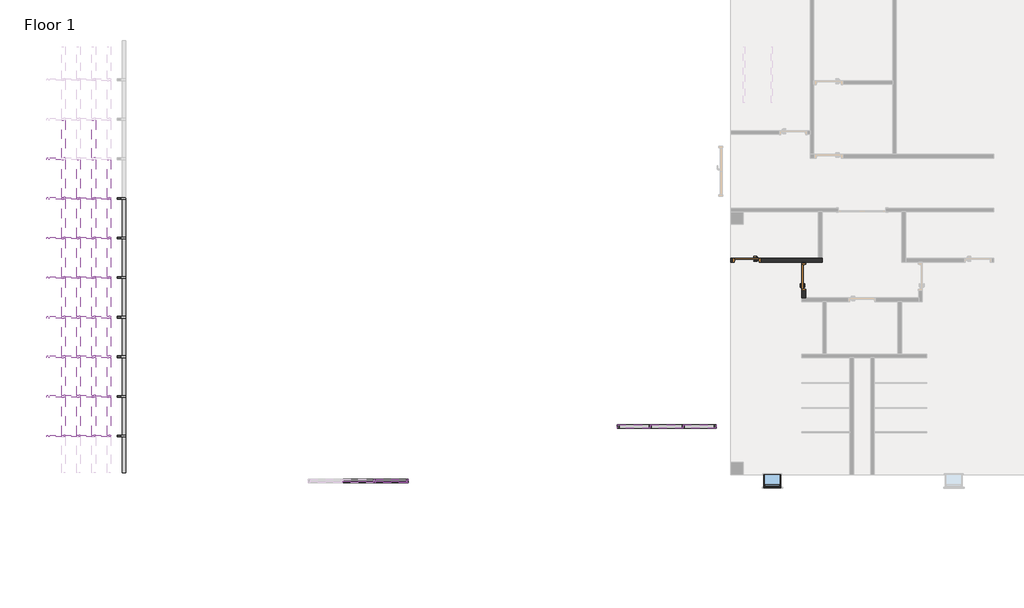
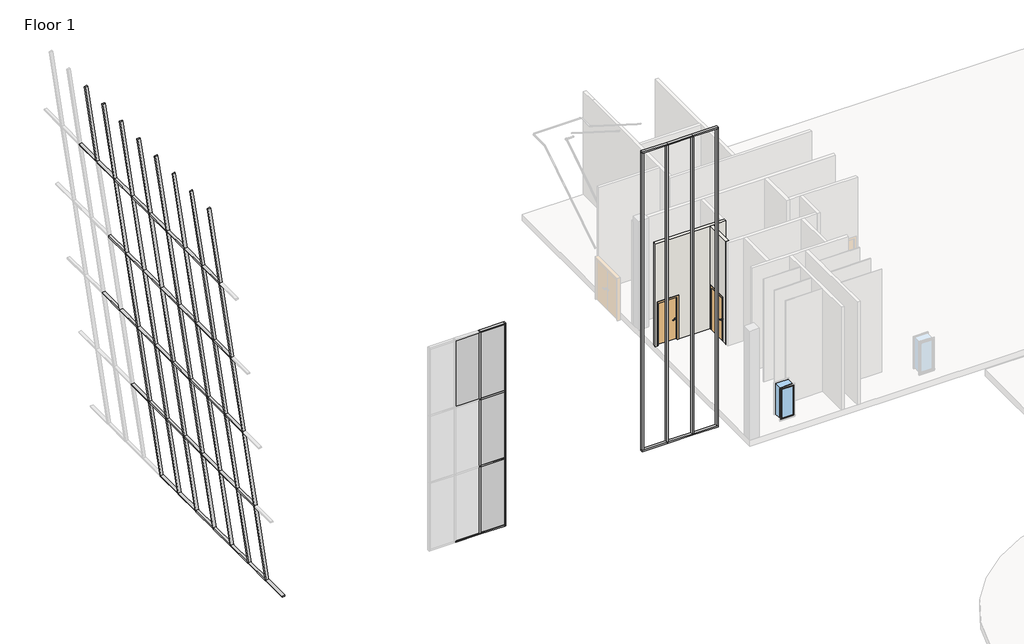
# One storey, part 3 of 11: 94 members, 4 plates, 2 doors, 2 walls, 1 window.
"""IFC4 building model written with IfcOpenShell, lengths in millimetres."""

from ifc_helpers import new_model, si_unit, frame, origin, place, context, project, spatial, polyline, outline, extrude, faceted_brep, transform, mapped, element, save
from components import door_36f17018, door_a46f4f49, member_7ac431fd, member_8669c44b, member_bd9c79d2, member_f8a9089e, member_5e02c13a, member_8caa64b4, member_b283b77b, member_01a33192, member_b037884b, member_01a4c065, member_349911e8, member_7b18d258, member_74dafc5e, member_9434a11c, system_panel_glazed_b92d501e, window_69ce9bab

model = new_model("IFC4")

# Units and contexts
model_context = context("Model", 3, world=origin())
ifc_project = project(units=[si_unit("LENGTHUNIT", "METRE", prefix="MILLI")], contexts=[model_context])

# Site, building, storey
site = spatial("IfcSite", under=ifc_project)
building = spatial("IfcBuilding", under=site)
storey = spatial("IfcBuildingStorey", under=building, Name="Floor 1", Elevation=0.0)

# Doors
placement = place(None, origin())
door_shape = door_36f17018(model_context)
element("IfcDoor", 1, ObjectType="Door-Passage-Single-Flush : 36\" x 84\"", at=placement, inside=storey, context=model_context, shape_type="MappedRepresentation", body=[
    mapped(door_shape, transform((-2380.0102165, 46455.811889, 0.0), x_axis=(-1.0, 0.0, 0.0), y_axis=(0.0, -1.0, 0.0), z_axis=(0.0, 0.0, 1.0))),
])
door_2_shape = door_a46f4f49(model_context)
element("IfcDoor", 2, ObjectType="Door-Passage-Single-Flush : 36\" x 84\"", at=placement, inside=storey, context=model_context, shape_type="MappedRepresentation", body=[
    mapped(door_2_shape, transform((-290.4807976, 45852.561889, 0.0), x_axis=(0.0, 1.0, 0.0), y_axis=(-1.0, 0.0, 0.0), z_axis=(0.0, 0.0, 1.0))),
])

# Members
member_shape = member_7ac431fd(model_context)
element("IfcMember", 3, ObjectType="Rectangular Mullion1 : 2.5\" x 5\" rectangular", at=placement, inside=storey, context=model_context, shape_type="MappedRepresentation", body=[
    mapped(member_shape, transform((-3497.6102165, 40372.511889, -152.4), x_axis=(0.0, 0.0, -1.0), y_axis=(0.0, 1.0, 0.0), z_axis=(1.0, 0.0, 0.0))),
])
element("IfcMember", 4, ObjectType="Rectangular Mullion1 : 2.5\" x 5\" rectangular", at=placement, inside=storey, context=model_context, shape_type="MappedRepresentation", body=[
    mapped(member_shape, transform((-7104.0307976, 40372.511889, 14935.2), x_axis=(0.0, 0.0, 1.0), y_axis=(0.0, 1.0, 0.0), z_axis=(-1.0, 0.0, 0.0))),
])
member_2_shape = member_8669c44b(model_context)
element("IfcMember", 5, ObjectType="Rectangular Mullion1 : 2.5\" x 5\" rectangular", at=placement, inside=storey, context=model_context, shape_type="MappedRepresentation", body=[
    mapped(member_2_shape, transform((-5901.8906039, 40372.511889, -88.9), x_axis=(-1.0, 0.0, 0.0), y_axis=(0.0, 1.0, 0.0), z_axis=(0.0, 0.0, -1.0))),
])
element("IfcMember", 6, ObjectType="Rectangular Mullion1 : 2.5\" x 5\" rectangular", at=placement, inside=storey, context=model_context, shape_type="MappedRepresentation", body=[
    mapped(member_2_shape, transform((-4699.7504102, 40372.511889, -88.9), x_axis=(-1.0, 0.0, 0.0), y_axis=(0.0, 1.0, 0.0), z_axis=(0.0, 0.0, -1.0))),
])
element("IfcMember", 7, ObjectType="Rectangular Mullion1 : 2.5\" x 5\" rectangular", at=placement, inside=storey, context=model_context, shape_type="MappedRepresentation", body=[
    mapped(member_shape, transform((-5901.8906039, 40372.511889, -152.4), x_axis=(0.0, 0.0, -1.0), y_axis=(0.0, 1.0, 0.0), z_axis=(1.0, 0.0, 0.0))),
])
element("IfcMember", 8, ObjectType="Rectangular Mullion1 : 2.5\" x 5\" rectangular", at=placement, inside=storey, context=model_context, shape_type="MappedRepresentation", body=[
    mapped(member_shape, transform((-4699.7504102, 40372.511889, -152.4), x_axis=(0.0, 0.0, -1.0), y_axis=(0.0, 1.0, 0.0), z_axis=(1.0, 0.0, 0.0))),
])
element("IfcMember", 9, ObjectType="Rectangular Mullion1 : 2.5\" x 5\" rectangular", at=placement, inside=storey, context=model_context, shape_type="MappedRepresentation", body=[
    mapped(member_shape, transform((-5901.8906039, 40372.511889, 14935.2), x_axis=(0.0, 0.0, 1.0), y_axis=(0.0, 1.0, 0.0), z_axis=(-1.0, 0.0, 0.0))),
])
element("IfcMember", 10, ObjectType="Rectangular Mullion1 : 2.5\" x 5\" rectangular", at=placement, inside=storey, context=model_context, shape_type="MappedRepresentation", body=[
    mapped(member_shape, transform((-4699.7504102, 40372.511889, 14935.2), x_axis=(0.0, 0.0, 1.0), y_axis=(0.0, 1.0, 0.0), z_axis=(-1.0, 0.0, 0.0))),
])
member_3_shape = member_bd9c79d2(model_context)
element("IfcMember", 11, ObjectType="Rectangular Mullion1 : 2.5\" x 5\" rectangular", at=placement, inside=storey, context=model_context, shape_type="MappedRepresentation", body=[
    mapped(member_3_shape, transform((-7104.0307976, 40372.511889, -88.9), x_axis=(-1.0, 0.0, 0.0), y_axis=(0.0, 1.0, 0.0), z_axis=(0.0, 0.0, -1.0))),
])
element("IfcMember", 12, ObjectType="Rectangular Mullion1 : 2.5\" x 5\" rectangular", at=placement, inside=storey, context=model_context, shape_type="MappedRepresentation", body=[
    mapped(member_3_shape, transform((-3497.6102165, 40372.511889, 14871.7), x_axis=(1.0, 0.0, 0.0), y_axis=(0.0, 1.0, 0.0), z_axis=(0.0, 0.0, 1.0))),
])
member_4_shape = member_f8a9089e(model_context)
element("IfcMember", 13, ObjectType="Rectangular Mullion1 : 2.5\" x 5\" rectangular", at=placement, inside=storey, context=model_context, shape_type="MappedRepresentation", body=[
    mapped(member_4_shape, transform((-25136.1948919, 40001.891697, -154.1674984), x_axis=(0.13917310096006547, 0.0, -0.9902680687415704), y_axis=(-0.9902680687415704, 0.0, -0.13917310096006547), z_axis=(0.0, 1.0, 0.0))),
])
member_5_shape = member_5e02c13a(model_context)
element("IfcMember", 14, ObjectType="Rectangular Mullion1 : 2.5\" x 5\" rectangular", at=placement, inside=storey, context=model_context, shape_type="MappedRepresentation", body=[
    mapped(member_5_shape, transform((-25136.1948919, 48684.2955428, -154.1674984), x_axis=(0.13917310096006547, 0.0, -0.9902680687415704), y_axis=(-0.9902680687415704, 0.0, -0.13917310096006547), z_axis=(0.0, 1.0, 0.0))),
])
element("IfcMember", 15, ObjectType="Rectangular Mullion1 : 2.5\" x 5\" rectangular", at=placement, inside=storey, context=model_context, shape_type="MappedRepresentation", body=[
    mapped(member_5_shape, transform((-25136.1948919, 47237.2282352, -154.1674984), x_axis=(0.13917310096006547, 0.0, -0.9902680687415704), y_axis=(-0.9902680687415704, 0.0, -0.13917310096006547), z_axis=(0.0, 1.0, 0.0))),
])
element("IfcMember", 16, ObjectType="Rectangular Mullion1 : 2.5\" x 5\" rectangular", at=placement, inside=storey, context=model_context, shape_type="MappedRepresentation", body=[
    mapped(member_5_shape, transform((-25136.1948919, 45790.1609275, -154.1674984), x_axis=(0.13917310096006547, 0.0, -0.9902680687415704), y_axis=(-0.9902680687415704, 0.0, -0.13917310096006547), z_axis=(0.0, 1.0, 0.0))),
])
element("IfcMember", 17, ObjectType="Rectangular Mullion1 : 2.5\" x 5\" rectangular", at=placement, inside=storey, context=model_context, shape_type="MappedRepresentation", body=[
    mapped(member_5_shape, transform((-25136.1948919, 44343.0936199, -154.1674984), x_axis=(0.13917310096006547, 0.0, -0.9902680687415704), y_axis=(-0.9902680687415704, 0.0, -0.13917310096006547), z_axis=(0.0, 1.0, 0.0))),
])
element("IfcMember", 18, ObjectType="Rectangular Mullion1 : 2.5\" x 5\" rectangular", at=placement, inside=storey, context=model_context, shape_type="MappedRepresentation", body=[
    mapped(member_5_shape, transform((-25136.1948919, 42896.0263122, -154.1674984), x_axis=(0.13917310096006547, 0.0, -0.9902680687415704), y_axis=(-0.9902680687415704, 0.0, -0.13917310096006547), z_axis=(0.0, 1.0, 0.0))),
])
element("IfcMember", 19, ObjectType="Rectangular Mullion1 : 2.5\" x 5\" rectangular", at=placement, inside=storey, context=model_context, shape_type="MappedRepresentation", body=[
    mapped(member_5_shape, transform((-25136.1948919, 41448.9590046, -154.1674984), x_axis=(0.13917310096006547, 0.0, -0.9902680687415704), y_axis=(-0.9902680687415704, 0.0, -0.13917310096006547), z_axis=(0.0, 1.0, 0.0))),
])
member_6_shape = member_8caa64b4(model_context)
element("IfcMember", 20, ObjectType="Rectangular Mullion1 : 2.5\" x 5\" rectangular", at=placement, inside=storey, context=model_context, shape_type="MappedRepresentation", body=[
    mapped(member_6_shape, transform((-25693.3790742, 48747.7955428, 3810.4039622), x_axis=(-0.13917310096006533, 0.0, 0.9902680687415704), y_axis=(-0.9902680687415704, 0.0, -0.13917310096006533), z_axis=(0.0, -1.0, 0.0))),
])
element("IfcMember", 21, ObjectType="Rectangular Mullion1 : 2.5\" x 5\" rectangular", at=placement, inside=storey, context=model_context, shape_type="MappedRepresentation", body=[
    mapped(member_6_shape, transform((-25693.3790742, 47300.7282352, 3810.4039622), x_axis=(-0.13917310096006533, 0.0, 0.9902680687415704), y_axis=(-0.9902680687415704, 0.0, -0.13917310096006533), z_axis=(0.0, -1.0, 0.0))),
])
element("IfcMember", 22, ObjectType="Rectangular Mullion1 : 2.5\" x 5\" rectangular", at=placement, inside=storey, context=model_context, shape_type="MappedRepresentation", body=[
    mapped(member_6_shape, transform((-25693.3790742, 45853.6609275, 3810.4039622), x_axis=(-0.13917310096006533, 0.0, 0.9902680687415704), y_axis=(-0.9902680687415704, 0.0, -0.13917310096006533), z_axis=(0.0, -1.0, 0.0))),
])
element("IfcMember", 23, ObjectType="Rectangular Mullion1 : 2.5\" x 5\" rectangular", at=placement, inside=storey, context=model_context, shape_type="MappedRepresentation", body=[
    mapped(member_6_shape, transform((-25693.3790742, 44406.5936199, 3810.4039622), x_axis=(-0.13917310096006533, 0.0, 0.9902680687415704), y_axis=(-0.9902680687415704, 0.0, -0.13917310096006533), z_axis=(0.0, -1.0, 0.0))),
])
element("IfcMember", 24, ObjectType="Rectangular Mullion1 : 2.5\" x 5\" rectangular", at=placement, inside=storey, context=model_context, shape_type="MappedRepresentation", body=[
    mapped(member_6_shape, transform((-25693.3790742, 42959.5263122, 3810.4039622), x_axis=(-0.13917310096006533, 0.0, 0.9902680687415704), y_axis=(-0.9902680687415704, 0.0, -0.13917310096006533), z_axis=(0.0, -1.0, 0.0))),
])
element("IfcMember", 25, ObjectType="Rectangular Mullion1 : 2.5\" x 5\" rectangular", at=placement, inside=storey, context=model_context, shape_type="MappedRepresentation", body=[
    mapped(member_6_shape, transform((-25693.3790742, 41512.4590046, 3810.4039622), x_axis=(-0.13917310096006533, 0.0, 0.9902680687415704), y_axis=(-0.9902680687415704, 0.0, -0.13917310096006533), z_axis=(0.0, -1.0, 0.0))),
])
element("IfcMember", 26, ObjectType="Rectangular Mullion1 : 2.5\" x 5\" rectangular", at=placement, inside=storey, context=model_context, shape_type="MappedRepresentation", body=[
    mapped(member_6_shape, transform((-25693.3790742, 40065.391697, 3810.4039622), x_axis=(-0.13917310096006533, 0.0, 0.9902680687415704), y_axis=(-0.9902680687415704, 0.0, -0.13917310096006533), z_axis=(0.0, -1.0, 0.0))),
])
element("IfcMember", 27, ObjectType="Rectangular Mullion1 : 2.5\" x 5\" rectangular", at=placement, inside=storey, context=model_context, shape_type="MappedRepresentation", body=[
    mapped(member_6_shape, transform((-26246.1445106, 50194.8628505, 7743.5344115), x_axis=(-0.13917310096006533, 0.0, 0.9902680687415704), y_axis=(-0.9902680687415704, 0.0, -0.13917310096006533), z_axis=(0.0, -1.0, 0.0))),
])
element("IfcMember", 28, ObjectType="Rectangular Mullion1 : 2.5\" x 5\" rectangular", at=placement, inside=storey, context=model_context, shape_type="MappedRepresentation", body=[
    mapped(member_6_shape, transform((-26246.1445106, 48747.7955428, 7743.5344115), x_axis=(-0.13917310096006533, 0.0, 0.9902680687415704), y_axis=(-0.9902680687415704, 0.0, -0.13917310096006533), z_axis=(0.0, -1.0, 0.0))),
])
element("IfcMember", 29, ObjectType="Rectangular Mullion1 : 2.5\" x 5\" rectangular", at=placement, inside=storey, context=model_context, shape_type="MappedRepresentation", body=[
    mapped(member_6_shape, transform((-26246.1445106, 47300.7282352, 7743.5344115), x_axis=(-0.13917310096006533, 0.0, 0.9902680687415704), y_axis=(-0.9902680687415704, 0.0, -0.13917310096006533), z_axis=(0.0, -1.0, 0.0))),
])
element("IfcMember", 30, ObjectType="Rectangular Mullion1 : 2.5\" x 5\" rectangular", at=placement, inside=storey, context=model_context, shape_type="MappedRepresentation", body=[
    mapped(member_6_shape, transform((-26246.1445106, 45853.6609275, 7743.5344115), x_axis=(-0.13917310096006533, 0.0, 0.9902680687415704), y_axis=(-0.9902680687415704, 0.0, -0.13917310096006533), z_axis=(0.0, -1.0, 0.0))),
])
element("IfcMember", 31, ObjectType="Rectangular Mullion1 : 2.5\" x 5\" rectangular", at=placement, inside=storey, context=model_context, shape_type="MappedRepresentation", body=[
    mapped(member_6_shape, transform((-26246.1445106, 44406.5936199, 7743.5344115), x_axis=(-0.13917310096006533, 0.0, 0.9902680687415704), y_axis=(-0.9902680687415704, 0.0, -0.13917310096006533), z_axis=(0.0, -1.0, 0.0))),
])
element("IfcMember", 32, ObjectType="Rectangular Mullion1 : 2.5\" x 5\" rectangular", at=placement, inside=storey, context=model_context, shape_type="MappedRepresentation", body=[
    mapped(member_6_shape, transform((-26246.1445106, 42959.5263122, 7743.5344115), x_axis=(-0.13917310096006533, 0.0, 0.9902680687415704), y_axis=(-0.9902680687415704, 0.0, -0.13917310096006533), z_axis=(0.0, -1.0, 0.0))),
])
element("IfcMember", 33, ObjectType="Rectangular Mullion1 : 2.5\" x 5\" rectangular", at=placement, inside=storey, context=model_context, shape_type="MappedRepresentation", body=[
    mapped(member_6_shape, transform((-26246.1445106, 41512.4590046, 7743.5344115), x_axis=(-0.13917310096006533, 0.0, 0.9902680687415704), y_axis=(-0.9902680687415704, 0.0, -0.13917310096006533), z_axis=(0.0, -1.0, 0.0))),
])
element("IfcMember", 34, ObjectType="Rectangular Mullion1 : 2.5\" x 5\" rectangular", at=placement, inside=storey, context=model_context, shape_type="MappedRepresentation", body=[
    mapped(member_6_shape, transform((-26246.1445106, 40065.391697, 7743.5344115), x_axis=(-0.13917310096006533, 0.0, 0.9902680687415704), y_axis=(-0.9902680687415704, 0.0, -0.13917310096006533), z_axis=(0.0, -1.0, 0.0))),
])
element("IfcMember", 35, ObjectType="Rectangular Mullion1 : 2.5\" x 5\" rectangular", at=placement, inside=storey, context=model_context, shape_type="MappedRepresentation", body=[
    mapped(member_6_shape, transform((-26798.9099469, 48747.7955428, 11676.6648609), x_axis=(-0.13917310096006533, 0.0, 0.9902680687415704), y_axis=(-0.9902680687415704, 0.0, -0.13917310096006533), z_axis=(0.0, -1.0, 0.0))),
])
element("IfcMember", 36, ObjectType="Rectangular Mullion1 : 2.5\" x 5\" rectangular", at=placement, inside=storey, context=model_context, shape_type="MappedRepresentation", body=[
    mapped(member_6_shape, transform((-26798.9099469, 47300.7282352, 11676.6648609), x_axis=(-0.13917310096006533, 0.0, 0.9902680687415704), y_axis=(-0.9902680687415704, 0.0, -0.13917310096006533), z_axis=(0.0, -1.0, 0.0))),
])
element("IfcMember", 37, ObjectType="Rectangular Mullion1 : 2.5\" x 5\" rectangular", at=placement, inside=storey, context=model_context, shape_type="MappedRepresentation", body=[
    mapped(member_6_shape, transform((-26798.9099469, 45853.6609275, 11676.6648609), x_axis=(-0.13917310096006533, 0.0, 0.9902680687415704), y_axis=(-0.9902680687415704, 0.0, -0.13917310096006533), z_axis=(0.0, -1.0, 0.0))),
])
element("IfcMember", 38, ObjectType="Rectangular Mullion1 : 2.5\" x 5\" rectangular", at=placement, inside=storey, context=model_context, shape_type="MappedRepresentation", body=[
    mapped(member_6_shape, transform((-26798.9099469, 44406.5936199, 11676.6648609), x_axis=(-0.13917310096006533, 0.0, 0.9902680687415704), y_axis=(-0.9902680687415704, 0.0, -0.13917310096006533), z_axis=(0.0, -1.0, 0.0))),
])
element("IfcMember", 39, ObjectType="Rectangular Mullion1 : 2.5\" x 5\" rectangular", at=placement, inside=storey, context=model_context, shape_type="MappedRepresentation", body=[
    mapped(member_6_shape, transform((-26798.9099469, 42959.5263122, 11676.6648609), x_axis=(-0.13917310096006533, 0.0, 0.9902680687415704), y_axis=(-0.9902680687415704, 0.0, -0.13917310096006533), z_axis=(0.0, -1.0, 0.0))),
])
element("IfcMember", 40, ObjectType="Rectangular Mullion1 : 2.5\" x 5\" rectangular", at=placement, inside=storey, context=model_context, shape_type="MappedRepresentation", body=[
    mapped(member_6_shape, transform((-26798.9099469, 41512.4590046, 11676.6648609), x_axis=(-0.13917310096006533, 0.0, 0.9902680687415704), y_axis=(-0.9902680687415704, 0.0, -0.13917310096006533), z_axis=(0.0, -1.0, 0.0))),
])
element("IfcMember", 41, ObjectType="Rectangular Mullion1 : 2.5\" x 5\" rectangular", at=placement, inside=storey, context=model_context, shape_type="MappedRepresentation", body=[
    mapped(member_6_shape, transform((-26798.9099469, 40065.391697, 11676.6648609), x_axis=(-0.13917310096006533, 0.0, 0.9902680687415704), y_axis=(-0.9902680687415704, 0.0, -0.13917310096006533), z_axis=(0.0, -1.0, 0.0))),
])
element("IfcMember", 42, ObjectType="Rectangular Mullion1 : 2.5\" x 5\" rectangular", at=placement, inside=storey, context=model_context, shape_type="MappedRepresentation", body=[
    mapped(member_6_shape, transform((-27351.6753833, 50194.8628505, 15609.7953102), x_axis=(-0.13917310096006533, 0.0, 0.9902680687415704), y_axis=(-0.9902680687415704, 0.0, -0.13917310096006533), z_axis=(0.0, -1.0, 0.0))),
])
element("IfcMember", 43, ObjectType="Rectangular Mullion1 : 2.5\" x 5\" rectangular", at=placement, inside=storey, context=model_context, shape_type="MappedRepresentation", body=[
    mapped(member_6_shape, transform((-27351.6753833, 48747.7955428, 15609.7953102), x_axis=(-0.13917310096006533, 0.0, 0.9902680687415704), y_axis=(-0.9902680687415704, 0.0, -0.13917310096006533), z_axis=(0.0, -1.0, 0.0))),
])
element("IfcMember", 44, ObjectType="Rectangular Mullion1 : 2.5\" x 5\" rectangular", at=placement, inside=storey, context=model_context, shape_type="MappedRepresentation", body=[
    mapped(member_6_shape, transform((-27351.6753833, 47300.7282352, 15609.7953102), x_axis=(-0.13917310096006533, 0.0, 0.9902680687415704), y_axis=(-0.9902680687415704, 0.0, -0.13917310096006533), z_axis=(0.0, -1.0, 0.0))),
])
element("IfcMember", 45, ObjectType="Rectangular Mullion1 : 2.5\" x 5\" rectangular", at=placement, inside=storey, context=model_context, shape_type="MappedRepresentation", body=[
    mapped(member_6_shape, transform((-27351.6753833, 45853.6609275, 15609.7953102), x_axis=(-0.13917310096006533, 0.0, 0.9902680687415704), y_axis=(-0.9902680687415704, 0.0, -0.13917310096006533), z_axis=(0.0, -1.0, 0.0))),
])
element("IfcMember", 46, ObjectType="Rectangular Mullion1 : 2.5\" x 5\" rectangular", at=placement, inside=storey, context=model_context, shape_type="MappedRepresentation", body=[
    mapped(member_6_shape, transform((-27351.6753833, 44406.5936199, 15609.7953102), x_axis=(-0.13917310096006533, 0.0, 0.9902680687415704), y_axis=(-0.9902680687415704, 0.0, -0.13917310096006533), z_axis=(0.0, -1.0, 0.0))),
])
element("IfcMember", 47, ObjectType="Rectangular Mullion1 : 2.5\" x 5\" rectangular", at=placement, inside=storey, context=model_context, shape_type="MappedRepresentation", body=[
    mapped(member_6_shape, transform((-27351.6753833, 42959.5263122, 15609.7953102), x_axis=(-0.13917310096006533, 0.0, 0.9902680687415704), y_axis=(-0.9902680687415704, 0.0, -0.13917310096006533), z_axis=(0.0, -1.0, 0.0))),
])
element("IfcMember", 48, ObjectType="Rectangular Mullion1 : 2.5\" x 5\" rectangular", at=placement, inside=storey, context=model_context, shape_type="MappedRepresentation", body=[
    mapped(member_6_shape, transform((-27351.6753833, 41512.4590046, 15609.7953102), x_axis=(-0.13917310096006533, 0.0, 0.9902680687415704), y_axis=(-0.9902680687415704, 0.0, -0.13917310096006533), z_axis=(0.0, -1.0, 0.0))),
])
element("IfcMember", 49, ObjectType="Rectangular Mullion1 : 2.5\" x 5\" rectangular", at=placement, inside=storey, context=model_context, shape_type="MappedRepresentation", body=[
    mapped(member_6_shape, transform((-27351.6753833, 40065.391697, 15609.7953102), x_axis=(-0.13917310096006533, 0.0, 0.9902680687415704), y_axis=(-0.9902680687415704, 0.0, -0.13917310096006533), z_axis=(0.0, -1.0, 0.0))),
])
member_7_shape = member_b283b77b(model_context)
element("IfcMember", 50, ObjectType="Rectangular Mullion1 : 2.5\" x 5\" rectangular", at=placement, inside=storey, context=model_context, shape_type="MappedRepresentation", body=[
    mapped(member_7_shape, transform((-25136.1948919, 48716.0455428, -154.1674984), x_axis=(0.0, -1.0, 0.0), y_axis=(-0.9902680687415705, 0.0, -0.13917310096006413), z_axis=(0.13917310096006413, 0.0, -0.9902680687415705))),
])
element("IfcMember", 51, ObjectType="Rectangular Mullion1 : 2.5\" x 5\" rectangular", at=placement, inside=storey, context=model_context, shape_type="MappedRepresentation", body=[
    mapped(member_7_shape, transform((-25136.1948919, 47268.9782352, -154.1674984), x_axis=(0.0, -1.0, 0.0), y_axis=(-0.9902680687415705, 0.0, -0.13917310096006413), z_axis=(0.13917310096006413, 0.0, -0.9902680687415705))),
])
element("IfcMember", 52, ObjectType="Rectangular Mullion1 : 2.5\" x 5\" rectangular", at=placement, inside=storey, context=model_context, shape_type="MappedRepresentation", body=[
    mapped(member_7_shape, transform((-25136.1948919, 45821.9109275, -154.1674984), x_axis=(0.0, -1.0, 0.0), y_axis=(-0.9902680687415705, 0.0, -0.13917310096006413), z_axis=(0.13917310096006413, 0.0, -0.9902680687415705))),
])
element("IfcMember", 53, ObjectType="Rectangular Mullion1 : 2.5\" x 5\" rectangular", at=placement, inside=storey, context=model_context, shape_type="MappedRepresentation", body=[
    mapped(member_7_shape, transform((-25136.1948919, 44374.8436199, -154.1674984), x_axis=(0.0, -1.0, 0.0), y_axis=(-0.9902680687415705, 0.0, -0.13917310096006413), z_axis=(0.13917310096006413, 0.0, -0.9902680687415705))),
])
element("IfcMember", 54, ObjectType="Rectangular Mullion1 : 2.5\" x 5\" rectangular", at=placement, inside=storey, context=model_context, shape_type="MappedRepresentation", body=[
    mapped(member_7_shape, transform((-25136.1948919, 42927.7763122, -154.1674984), x_axis=(0.0, -1.0, 0.0), y_axis=(-0.9902680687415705, 0.0, -0.13917310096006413), z_axis=(0.13917310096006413, 0.0, -0.9902680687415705))),
])
element("IfcMember", 55, ObjectType="Rectangular Mullion1 : 2.5\" x 5\" rectangular", at=placement, inside=storey, context=model_context, shape_type="MappedRepresentation", body=[
    mapped(member_7_shape, transform((-25136.1948919, 41480.7090046, -154.1674984), x_axis=(0.0, -1.0, 0.0), y_axis=(-0.99026806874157, 0.0, -0.1391731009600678), z_axis=(0.1391731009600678, 0.0, -0.99026806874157))),
])
element("IfcMember", 56, ObjectType="Rectangular Mullion1 : 2.5\" x 5\" rectangular", at=placement, inside=storey, context=model_context, shape_type="MappedRepresentation", body=[
    mapped(member_7_shape, transform((-25136.1948919, 40033.641697, -154.1674984), x_axis=(0.0, -1.0, 0.0), y_axis=(-0.9902680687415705, 0.0, -0.13917310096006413), z_axis=(0.13917310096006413, 0.0, -0.9902680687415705))),
])
member_8_shape = member_01a33192(model_context)
element("IfcMember", 57, ObjectType="Rectangular Mullion1 : 2.5\" x 5\" rectangular", at=placement, inside=storey, context=model_context, shape_type="MappedRepresentation", body=[
    mapped(member_8_shape, transform((-25693.3790742, 48716.0455428, 3810.4039622), x_axis=(0.0, -1.0, 0.0), y_axis=(-0.9902680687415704, 0.0, -0.13917310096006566), z_axis=(0.13917310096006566, 0.0, -0.9902680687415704))),
])
element("IfcMember", 58, ObjectType="Rectangular Mullion1 : 2.5\" x 5\" rectangular", at=placement, inside=storey, context=model_context, shape_type="MappedRepresentation", body=[
    mapped(member_8_shape, transform((-25693.3790742, 47268.9782352, 3810.4039622), x_axis=(0.0, -1.0, 0.0), y_axis=(-0.9902680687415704, 0.0, -0.13917310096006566), z_axis=(0.13917310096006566, 0.0, -0.9902680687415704))),
])
element("IfcMember", 59, ObjectType="Rectangular Mullion1 : 2.5\" x 5\" rectangular", at=placement, inside=storey, context=model_context, shape_type="MappedRepresentation", body=[
    mapped(member_8_shape, transform((-25693.3790742, 45821.9109275, 3810.4039622), x_axis=(0.0, -1.0, 0.0), y_axis=(-0.9902680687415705, 0.0, -0.13917310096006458), z_axis=(0.13917310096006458, 0.0, -0.9902680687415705))),
])
element("IfcMember", 60, ObjectType="Rectangular Mullion1 : 2.5\" x 5\" rectangular", at=placement, inside=storey, context=model_context, shape_type="MappedRepresentation", body=[
    mapped(member_8_shape, transform((-25693.3790742, 44374.8436199, 3810.4039622), x_axis=(0.0, -1.0, 0.0), y_axis=(-0.9902680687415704, 0.0, -0.13917310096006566), z_axis=(0.13917310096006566, 0.0, -0.9902680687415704))),
])
element("IfcMember", 61, ObjectType="Rectangular Mullion1 : 2.5\" x 5\" rectangular", at=placement, inside=storey, context=model_context, shape_type="MappedRepresentation", body=[
    mapped(member_8_shape, transform((-25693.3790742, 42927.7763122, 3810.4039622), x_axis=(0.0, -1.0, 0.0), y_axis=(-0.9902680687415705, 0.0, -0.13917310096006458), z_axis=(0.13917310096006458, 0.0, -0.9902680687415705))),
])
element("IfcMember", 62, ObjectType="Rectangular Mullion1 : 2.5\" x 5\" rectangular", at=placement, inside=storey, context=model_context, shape_type="MappedRepresentation", body=[
    mapped(member_8_shape, transform((-25693.3790742, 41480.7090046, 3810.4039622), x_axis=(0.0, -1.0, 0.0), y_axis=(-0.9902680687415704, 0.0, -0.13917310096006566), z_axis=(0.13917310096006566, 0.0, -0.9902680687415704))),
])
element("IfcMember", 63, ObjectType="Rectangular Mullion1 : 2.5\" x 5\" rectangular", at=placement, inside=storey, context=model_context, shape_type="MappedRepresentation", body=[
    mapped(member_8_shape, transform((-25693.3790742, 40033.641697, 3810.4039622), x_axis=(0.0, -1.0, 0.0), y_axis=(-0.9902680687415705, 0.0, -0.13917310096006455), z_axis=(0.13917310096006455, 0.0, -0.9902680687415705))),
])
element("IfcMember", 64, ObjectType="Rectangular Mullion1 : 2.5\" x 5\" rectangular", at=placement, inside=storey, context=model_context, shape_type="MappedRepresentation", body=[
    mapped(member_8_shape, transform((-26246.1445106, 48716.0455428, 7743.5344115), x_axis=(0.0, -1.0, 0.0), y_axis=(-0.9902680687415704, 0.0, -0.13917310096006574), z_axis=(0.13917310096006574, 0.0, -0.9902680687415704))),
])
element("IfcMember", 65, ObjectType="Rectangular Mullion1 : 2.5\" x 5\" rectangular", at=placement, inside=storey, context=model_context, shape_type="MappedRepresentation", body=[
    mapped(member_8_shape, transform((-26246.1445106, 47268.9782352, 7743.5344115), x_axis=(0.0, -1.0, 0.0), y_axis=(-0.9902680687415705, 0.0, -0.13917310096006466), z_axis=(0.13917310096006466, 0.0, -0.9902680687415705))),
])
element("IfcMember", 66, ObjectType="Rectangular Mullion1 : 2.5\" x 5\" rectangular", at=placement, inside=storey, context=model_context, shape_type="MappedRepresentation", body=[
    mapped(member_8_shape, transform((-26246.1445106, 45821.9109275, 7743.5344115), x_axis=(0.0, -1.0, 0.0), y_axis=(-0.9902680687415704, 0.0, -0.13917310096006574), z_axis=(0.13917310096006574, 0.0, -0.9902680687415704))),
])
element("IfcMember", 67, ObjectType="Rectangular Mullion1 : 2.5\" x 5\" rectangular", at=placement, inside=storey, context=model_context, shape_type="MappedRepresentation", body=[
    mapped(member_8_shape, transform((-26246.1445106, 44374.8436199, 7743.5344115), x_axis=(0.0, -1.0, 0.0), y_axis=(-0.9902680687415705, 0.0, -0.13917310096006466), z_axis=(0.13917310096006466, 0.0, -0.9902680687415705))),
])
element("IfcMember", 68, ObjectType="Rectangular Mullion1 : 2.5\" x 5\" rectangular", at=placement, inside=storey, context=model_context, shape_type="MappedRepresentation", body=[
    mapped(member_8_shape, transform((-26246.1445106, 42927.7763122, 7743.5344115), x_axis=(0.0, -1.0, 0.0), y_axis=(-0.9902680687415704, 0.0, -0.13917310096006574), z_axis=(0.13917310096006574, 0.0, -0.9902680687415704))),
])
element("IfcMember", 69, ObjectType="Rectangular Mullion1 : 2.5\" x 5\" rectangular", at=placement, inside=storey, context=model_context, shape_type="MappedRepresentation", body=[
    mapped(member_8_shape, transform((-26246.1445106, 41480.7090046, 7743.5344115), x_axis=(0.0, -1.0, 0.0), y_axis=(-0.9902680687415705, 0.0, -0.13917310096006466), z_axis=(0.13917310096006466, 0.0, -0.9902680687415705))),
])
element("IfcMember", 70, ObjectType="Rectangular Mullion1 : 2.5\" x 5\" rectangular", at=placement, inside=storey, context=model_context, shape_type="MappedRepresentation", body=[
    mapped(member_8_shape, transform((-26246.1445106, 40033.641697, 7743.5344115), x_axis=(0.0, -1.0, 0.0), y_axis=(-0.9902680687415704, 0.0, -0.13917310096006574), z_axis=(0.13917310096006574, 0.0, -0.9902680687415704))),
])
element("IfcMember", 71, ObjectType="Rectangular Mullion1 : 2.5\" x 5\" rectangular", at=placement, inside=storey, context=model_context, shape_type="MappedRepresentation", body=[
    mapped(member_8_shape, transform((-26798.9099469, 48716.0455428, 11676.6648609), x_axis=(0.0, -1.0, 0.0), y_axis=(-0.9902680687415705, 0.0, -0.1391731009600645), z_axis=(0.1391731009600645, 0.0, -0.9902680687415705))),
])
element("IfcMember", 72, ObjectType="Rectangular Mullion1 : 2.5\" x 5\" rectangular", at=placement, inside=storey, context=model_context, shape_type="MappedRepresentation", body=[
    mapped(member_8_shape, transform((-26798.9099469, 47268.9782352, 11676.6648609), x_axis=(0.0, -1.0, 0.0), y_axis=(-0.9902680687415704, 0.0, -0.13917310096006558), z_axis=(0.13917310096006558, 0.0, -0.9902680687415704))),
])
element("IfcMember", 73, ObjectType="Rectangular Mullion1 : 2.5\" x 5\" rectangular", at=placement, inside=storey, context=model_context, shape_type="MappedRepresentation", body=[
    mapped(member_8_shape, transform((-26798.9099469, 45821.9109275, 11676.6648609), x_axis=(0.0, -1.0, 0.0), y_axis=(-0.9902680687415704, 0.0, -0.13917310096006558), z_axis=(0.13917310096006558, 0.0, -0.9902680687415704))),
])
element("IfcMember", 74, ObjectType="Rectangular Mullion1 : 2.5\" x 5\" rectangular", at=placement, inside=storey, context=model_context, shape_type="MappedRepresentation", body=[
    mapped(member_8_shape, transform((-26798.9099469, 44374.8436199, 11676.6648609), x_axis=(0.0, -1.0, 0.0), y_axis=(-0.9902680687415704, 0.0, -0.13917310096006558), z_axis=(0.13917310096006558, 0.0, -0.9902680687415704))),
])
element("IfcMember", 75, ObjectType="Rectangular Mullion1 : 2.5\" x 5\" rectangular", at=placement, inside=storey, context=model_context, shape_type="MappedRepresentation", body=[
    mapped(member_8_shape, transform((-26798.9099469, 42927.7763122, 11676.6648609), x_axis=(0.0, -1.0, 0.0), y_axis=(-0.9902680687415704, 0.0, -0.13917310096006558), z_axis=(0.13917310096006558, 0.0, -0.9902680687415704))),
])
element("IfcMember", 76, ObjectType="Rectangular Mullion1 : 2.5\" x 5\" rectangular", at=placement, inside=storey, context=model_context, shape_type="MappedRepresentation", body=[
    mapped(member_8_shape, transform((-26798.9099469, 41480.7090046, 11676.6648609), x_axis=(0.0, -1.0, 0.0), y_axis=(-0.9902680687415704, 0.0, -0.13917310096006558), z_axis=(0.13917310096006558, 0.0, -0.9902680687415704))),
])
element("IfcMember", 77, ObjectType="Rectangular Mullion1 : 2.5\" x 5\" rectangular", at=placement, inside=storey, context=model_context, shape_type="MappedRepresentation", body=[
    mapped(member_8_shape, transform((-26798.9099469, 40033.641697, 11676.6648609), x_axis=(0.0, -1.0, 0.0), y_axis=(-0.9902680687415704, 0.0, -0.13917310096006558), z_axis=(0.13917310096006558, 0.0, -0.9902680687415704))),
])
element("IfcMember", 78, ObjectType="Rectangular Mullion1 : 2.5\" x 5\" rectangular", at=placement, inside=storey, context=model_context, shape_type="MappedRepresentation", body=[
    mapped(member_7_shape, transform((-27351.6753833, 50163.1128505, 15609.7953102), x_axis=(0.0, -1.0, 0.0), y_axis=(-0.9902680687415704, 0.0, -0.13917310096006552), z_axis=(0.1391731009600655, 0.0, -0.9902680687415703))),
])
element("IfcMember", 79, ObjectType="Rectangular Mullion1 : 2.5\" x 5\" rectangular", at=placement, inside=storey, context=model_context, shape_type="MappedRepresentation", body=[
    mapped(member_7_shape, transform((-27351.6753833, 48716.0455428, 15609.7953102), x_axis=(0.0, -1.0, 0.0), y_axis=(-0.9902680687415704, 0.0, -0.13917310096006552), z_axis=(0.1391731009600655, 0.0, -0.9902680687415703))),
])
element("IfcMember", 80, ObjectType="Rectangular Mullion1 : 2.5\" x 5\" rectangular", at=placement, inside=storey, context=model_context, shape_type="MappedRepresentation", body=[
    mapped(member_7_shape, transform((-27351.6753833, 47268.9782352, 15609.7953102), x_axis=(0.0, -1.0, 0.0), y_axis=(-0.9902680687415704, 0.0, -0.13917310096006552), z_axis=(0.1391731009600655, 0.0, -0.9902680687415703))),
])
element("IfcMember", 81, ObjectType="Rectangular Mullion1 : 2.5\" x 5\" rectangular", at=placement, inside=storey, context=model_context, shape_type="MappedRepresentation", body=[
    mapped(member_7_shape, transform((-27351.6753833, 45821.9109275, 15609.7953102), x_axis=(0.0, -1.0, 0.0), y_axis=(-0.9902680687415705, 0.0, -0.13917310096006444), z_axis=(0.13917310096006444, 0.0, -0.9902680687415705))),
])
element("IfcMember", 82, ObjectType="Rectangular Mullion1 : 2.5\" x 5\" rectangular", at=placement, inside=storey, context=model_context, shape_type="MappedRepresentation", body=[
    mapped(member_7_shape, transform((-27351.6753833, 44374.8436199, 15609.7953102), x_axis=(0.0, -1.0, 0.0), y_axis=(-0.9902680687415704, 0.0, -0.13917310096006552), z_axis=(0.1391731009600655, 0.0, -0.9902680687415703))),
])
element("IfcMember", 83, ObjectType="Rectangular Mullion1 : 2.5\" x 5\" rectangular", at=placement, inside=storey, context=model_context, shape_type="MappedRepresentation", body=[
    mapped(member_7_shape, transform((-27351.6753833, 42927.7763122, 15609.7953102), x_axis=(0.0, -1.0, 0.0), y_axis=(-0.9902680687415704, 0.0, -0.13917310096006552), z_axis=(0.1391731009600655, 0.0, -0.9902680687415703))),
])
element("IfcMember", 84, ObjectType="Rectangular Mullion1 : 2.5\" x 5\" rectangular", at=placement, inside=storey, context=model_context, shape_type="MappedRepresentation", body=[
    mapped(member_7_shape, transform((-27351.6753833, 41480.7090046, 15609.7953102), x_axis=(0.0, -1.0, 0.0), y_axis=(-0.9902680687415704, 0.0, -0.13917310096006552), z_axis=(0.1391731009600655, 0.0, -0.9902680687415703))),
])
element("IfcMember", 85, ObjectType="Rectangular Mullion1 : 2.5\" x 5\" rectangular", at=placement, inside=storey, context=model_context, shape_type="MappedRepresentation", body=[
    mapped(member_7_shape, transform((-27351.6753833, 40033.641697, 15609.7953102), x_axis=(0.0, -1.0, 0.0), y_axis=(-0.9902680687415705, 0.0, -0.13917310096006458), z_axis=(0.13917310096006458, 0.0, -0.9902680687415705))),
])
member_9_shape = member_b037884b(model_context)
element("IfcMember", 86, ObjectType="Rectangular Mullion1 : 2.5\" x 5\" rectangular", at=placement, inside=storey, context=model_context, shape_type="MappedRepresentation", body=[
    mapped(member_9_shape, transform((-15945.8766311, 38391.311889, 10210.8), x_axis=(0.0, 0.0, 1.0), y_axis=(0.0, 1.0, 0.0), z_axis=(-1.0, 0.0, 0.0))),
])
element("IfcMember", 87, ObjectType="Rectangular Mullion1 : 2.5\" x 5\" rectangular", at=placement, inside=storey, context=model_context, shape_type="MappedRepresentation", body=[
    mapped(member_9_shape, transform((-14811.3432976, 38391.311889, 0.0), x_axis=(0.0, 0.0, -1.0), y_axis=(0.0, 1.0, 0.0), z_axis=(1.0, 0.0, 0.0))),
])
element("IfcMember", 88, ObjectType="Rectangular Mullion1 : 2.5\" x 5\" rectangular", at=placement, inside=storey, context=model_context, shape_type="MappedRepresentation", body=[
    mapped(member_9_shape, transform((-16009.3766311, 38391.311889, 0.0), x_axis=(0.0, 0.0, -1.0), y_axis=(0.0, 1.0, 0.0), z_axis=(1.0, 0.0, 0.0))),
])
member_10_shape = member_01a4c065(model_context)
element("IfcMember", 89, ObjectType="Rectangular Mullion1 : 2.5\" x 5\" rectangular", at=placement, inside=storey, context=model_context, shape_type="MappedRepresentation", body=[
    mapped(member_10_shape, transform((-15945.8766311, 38391.311889, 3414.1833333), x_axis=(0.0, 0.0, 1.0), y_axis=(0.0, 1.0, 0.0), z_axis=(-1.0, 0.0, 0.0))),
])
element("IfcMember", 90, ObjectType="Rectangular Mullion1 : 2.5\" x 5\" rectangular", at=placement, inside=storey, context=model_context, shape_type="MappedRepresentation", body=[
    mapped(member_10_shape, transform((-15945.8766311, 38391.311889, 6796.6166667), x_axis=(0.0, 0.0, 1.0), y_axis=(0.0, 1.0, 0.0), z_axis=(-1.0, 0.0, 0.0))),
])
member_11_shape = member_349911e8(model_context)
element("IfcMember", 91, ObjectType="Rectangular Mullion1 : 2.5\" x 5\" rectangular", at=placement, inside=storey, context=model_context, shape_type="MappedRepresentation", body=[
    mapped(member_11_shape, transform((-15977.6266311, 38391.311889, 0.0), x_axis=(-1.0, 0.0, 0.0), y_axis=(0.0, 1.0, 0.0), z_axis=(0.0, 0.0, -1.0))),
])
member_12_shape = member_7b18d258(model_context)
element("IfcMember", 92, ObjectType="Rectangular Mullion1 : 2.5\" x 5\" rectangular", at=placement, inside=storey, context=model_context, shape_type="MappedRepresentation", body=[
    mapped(member_12_shape, transform((-15977.6266311, 38391.311889, 3414.1833333), x_axis=(-1.0, 0.0, 0.0), y_axis=(0.0, 1.0, 0.0), z_axis=(0.0, 0.0, -1.0))),
])
element("IfcMember", 93, ObjectType="Rectangular Mullion1 : 2.5\" x 5\" rectangular", at=placement, inside=storey, context=model_context, shape_type="MappedRepresentation", body=[
    mapped(member_11_shape, transform((-15977.6266311, 38391.311889, 6796.6166667), x_axis=(-1.0, 0.0, 0.0), y_axis=(0.0, 1.0, 0.0), z_axis=(0.0, 0.0, -1.0))),
])
member_13_shape = member_74dafc5e(model_context)
element("IfcMember", 94, ObjectType="Rectangular Mullion1 : 2.5\" x 5\" rectangular", at=placement, inside=storey, context=model_context, shape_type="MappedRepresentation", body=[
    mapped(member_13_shape, transform((-14747.8432976, 38391.311889, 10210.8), x_axis=(1.0, 0.0, 0.0), y_axis=(0.0, 1.0, 0.0), z_axis=(0.0, 0.0, 1.0))),
])
element("IfcMember", 95, ObjectType="Rectangular Mullion1 : 2.5\" x 5\" rectangular", at=placement, inside=storey, context=model_context, shape_type="MappedRepresentation", body=[
    mapped(member_13_shape, transform((-14747.8432976, 38391.311889, 3414.1833333), x_axis=(1.0, 0.0, 0.0), y_axis=(0.0, 1.0, 0.0), z_axis=(0.0, 0.0, 1.0))),
])
member_14_shape = member_9434a11c(model_context)
element("IfcMember", 96, ObjectType="Rectangular Mullion1 : 2.5\" x 5\" rectangular", at=placement, inside=storey, context=model_context, shape_type="MappedRepresentation", body=[
    mapped(member_14_shape, transform((-14747.8432976, 38391.311889, 6796.6166667), x_axis=(1.0, 0.0, 0.0), y_axis=(0.0, 1.0, 0.0), z_axis=(0.0, 0.0, 1.0))),
])

# Plates
system_panel_glazed_shape = system_panel_glazed_b92d501e(model_context)
element("IfcPlate", 97, ObjectType="System Panel : Glazed", at=placement, inside=storey, context=model_context, shape_type="MappedRepresentation", body=[
    mapped(system_panel_glazed_shape, transform((-15378.6099644, 38391.311889, 63.5), x_axis=(-1.0, 0.0, 0.0), y_axis=(0.0, -1.0, 0.0), z_axis=(0.0, 0.0, 1.0))),
])
element("IfcPlate", 98, ObjectType="System Panel : Glazed", at=placement, inside=storey, context=model_context, shape_type="MappedRepresentation", body=[
    mapped(system_panel_glazed_shape, transform((-15378.6099644, 38391.311889, 3445.9333333), x_axis=(-1.0, 0.0, 0.0), y_axis=(0.0, -1.0, 0.0), z_axis=(0.0, 0.0, 1.0))),
])
element("IfcPlate", 99, ObjectType="System Panel : Glazed", at=placement, inside=storey, context=model_context, shape_type="MappedRepresentation", body=[
    mapped(system_panel_glazed_shape, transform((-15378.6099644, 38391.311889, 6828.3666667), x_axis=(-1.0, 0.0, 0.0), y_axis=(0.0, -1.0, 0.0), z_axis=(0.0, 0.0, 1.0))),
])
element("IfcPlate", 100, ObjectType="System Panel : Glazed", at=placement, inside=storey, context=model_context, shape_type="MappedRepresentation", body=[
    mapped(system_panel_glazed_shape, transform((-16576.6432976, 38391.311889, 6828.3666667), x_axis=(-1.0, 0.0, 0.0), y_axis=(0.0, -1.0, 0.0), z_axis=(0.0, 0.0, 1.0))),
])

# Walls
element("IfcWall", 101, ObjectType="Interior - 5 1/2\" Partition (1-hr)", at=placement, inside=storey, context=model_context, shape_type="Brep", body=[
    faceted_brep([(-2965.7977165, 46392.311889, 0.0), (-2888.0102165, 46392.311889, 0.0), (-2888.0102165, 46392.311889, 2235.2), (-1872.0102165, 46392.311889, 2235.2), (-1872.0102165, 46392.311889, 0.0), (-366.6807976, 46392.311889, 0.0), (-226.9807976, 46392.311889, 0.0), (382.6192024, 46392.311889, 0.0), (382.6192024, 46392.311889, 5181.6), (-226.9807976, 46392.311889, 5181.6), (-366.6807976, 46392.311889, 5181.6), (-2965.7977165, 46392.311889, 5181.6), (-2888.0102165, 46532.011889, 2235.2), (-2888.0102165, 46532.011889, 0.0), (-2965.7977165, 46532.011889, 0.0), (-2965.7977165, 46532.011889, 5181.6), (242.9192024, 46532.011889, 5181.6), (382.6192024, 46532.011889, 5181.6), (382.6192024, 46532.011889, 0.0), (242.9192024, 46532.011889, 0.0), (-1872.0102165, 46532.011889, 0.0), (-1872.0102165, 46532.011889, 2235.2)], [[[0, 1, 2, 3, 4, 5, 6, 7, 8, 9, 10, 11]], [[12, 13, 14, 15, 16, 17, 18, 19, 20, 21]], [[14, 13, 1, 0]], [[20, 19, 18, 7, 6, 5, 4]], [[0, 11, 15, 14]], [[8, 7, 18, 17]], [[11, 10, 9, 8, 17, 16, 15]], [[2, 1, 13, 12]], [[3, 2, 12, 21]], [[4, 3, 21, 20]]]),
])
element("IfcWall", 102, ObjectType="Interior - 5 1/2\" Partition (1-hr)", at=placement, inside=storey, context=model_context, shape_type="SweptSolid", body=[
    extrude(outline(polyline([(46392.311889, 0.0), (46360.561889, 0.0), (46360.561889, 2235.2), (45344.561889, 2235.2), (45344.561889, 0.0), (45084.211889, 0.0), (45084.211889, 5181.6), (46392.311889, 5181.6), (46392.311889, 0.0)])), frame((-366.6807976, 0.0, 0.0), z_axis=(1.0, 0.0, 0.0), x_axis=(0.0, 1.0, 0.0)), (0.0, 0.0, 1.0), 139.7),
])

# Window
window_shape = window_69ce9bab(model_context)
element("IfcWindow", 103, ObjectType="Window-Fixed : 24\" x 60\"", at=placement, inside=storey, context=model_context, shape_type="MappedRepresentation", body=[
    mapped(window_shape, transform((-1446.1807976, 38391.311889, 0.0), x_axis=(-1.0, 0.0, 0.0), y_axis=(0.0, -1.0, 0.0), z_axis=(0.0, 0.0, 1.0))),
])

save(model, "model.ifc")
